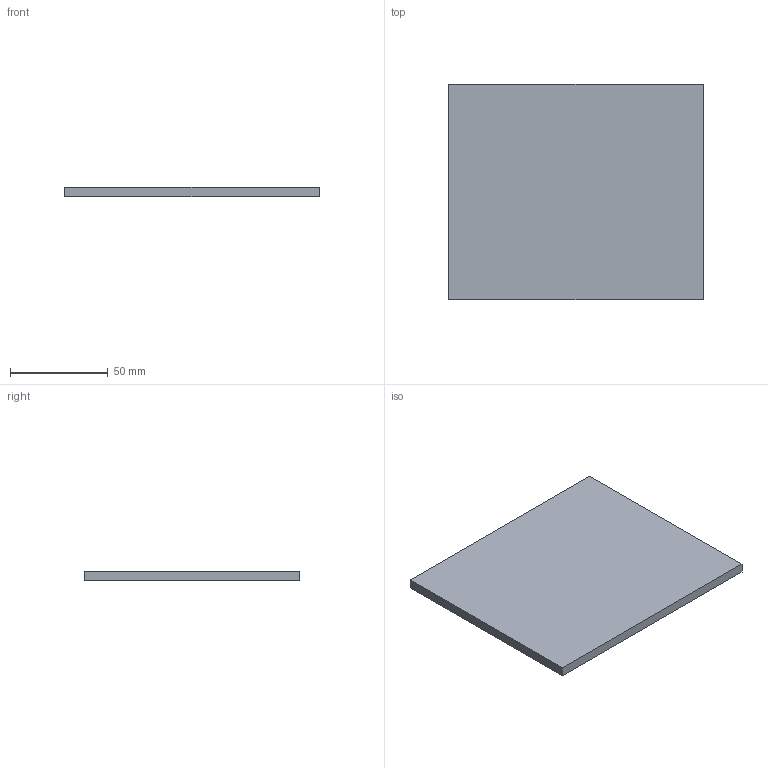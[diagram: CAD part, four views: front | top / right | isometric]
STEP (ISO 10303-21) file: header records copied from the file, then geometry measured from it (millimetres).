
FILE_DESCRIPTION(/* description */ (''),/* implementation_level */ '2;1');
FILE_NAME(/* name */ 'podstawa.stp',/* time_stamp */ '2025-06-07T23:30:45+02:00',/* author */ (''),/* organization */ (''),/* preprocessor_version */ 'ST-DEVELOPER v20',/* originating_system */ 'SIEMENS PLM Software NX2412.3001',/* authorisation */ '');
FILE_SCHEMA (('AUTOMOTIVE_DESIGN { 1 0 10303 214 3 1 1 1 }'));
Length unit declared in the file: millimetre
Products named in the file (1): podstawa
Bounding box: 130 x 110 x 5 mm (x, y, z)
Volume: 71500 mm3; surface area: 31000 mm2
Topology: 1 solids, 1 shells, 6 faces, 12 edges, 8 vertices
Faces by surface type: plane 6
Entity records: 180 total; most frequent: CARTESIAN_POINT 27, DIRECTION 26, ORIENTED_EDGE 24, EDGE_CURVE 12, LINE 12, VECTOR 12, VERTEX_POINT 8, AXIS2_PLACEMENT_3D 7
